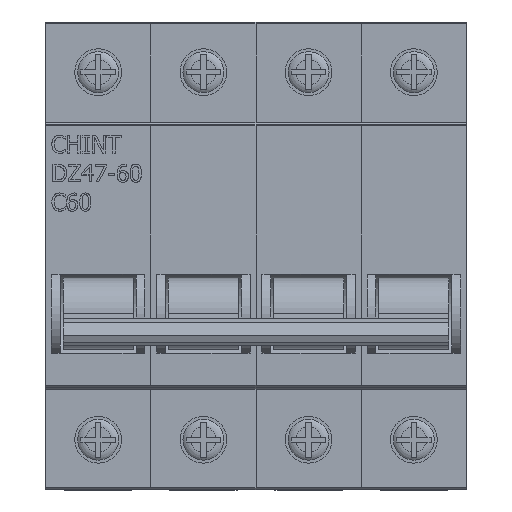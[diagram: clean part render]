
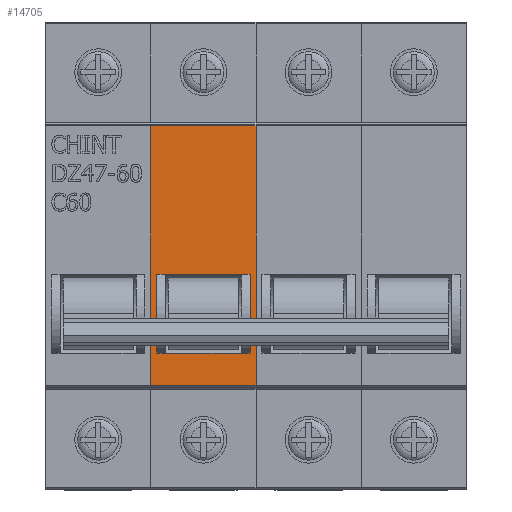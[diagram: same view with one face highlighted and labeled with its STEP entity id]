
A CAD part, top view. The second image highlights one B-rep face of the part: STEP entity #14705.
In plain terms, the highlighted planar face has unit normal (0, 0, 1).
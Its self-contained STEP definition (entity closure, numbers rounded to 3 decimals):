
#772=FACE_BOUND('',#2510,.T.);
#1509=FACE_OUTER_BOUND('',#2509,.T.);
#2509=EDGE_LOOP('',(#11733,#11734,#11735,#11736));
#2510=EDGE_LOOP('',(#11737,#11738,#11739,#11740,#11741,#11742,#11743,#11744));
#3768=LINE('',#24034,#5133);
#3774=LINE('',#24046,#5139);
#3806=LINE('',#24116,#5171);
#3875=LINE('',#24295,#5240);
#3876=LINE('',#24297,#5241);
#3877=LINE('',#24300,#5242);
#3880=LINE('',#24339,#5245);
#3883=LINE('',#24350,#5248);
#3884=LINE('',#24354,#5249);
#3885=LINE('',#24362,#5250);
#3886=LINE('',#24364,#5251);
#3889=LINE('',#24387,#5254);
#5133=VECTOR('',#17945,10.);
#5139=VECTOR('',#17955,10.);
#5171=VECTOR('',#17997,10.);
#5240=VECTOR('',#18184,10.);
#5241=VECTOR('',#18185,10.);
#5242=VECTOR('',#18190,10.);
#5245=VECTOR('',#18241,10.);
#5248=VECTOR('',#18250,10.);
#5249=VECTOR('',#18253,10.);
#5250=VECTOR('',#18264,10.);
#5251=VECTOR('',#18267,10.);
#5254=VECTOR('',#18304,10.);
#6707=VERTEX_POINT('',#24031);
#6708=VERTEX_POINT('',#24033);
#6712=VERTEX_POINT('',#24045);
#6744=VERTEX_POINT('',#24112);
#6794=VERTEX_POINT('',#24285);
#6795=VERTEX_POINT('',#24287);
#6796=VERTEX_POINT('',#24294);
#6797=VERTEX_POINT('',#24296);
#6809=VERTEX_POINT('',#24338);
#6814=VERTEX_POINT('',#24348);
#6815=VERTEX_POINT('',#24352);
#6816=VERTEX_POINT('',#24353);
#8434=EDGE_CURVE('',#6707,#6708,#3768,.T.);
#8440=EDGE_CURVE('',#6712,#6708,#3774,.T.);
#8476=EDGE_CURVE('',#6712,#6744,#3806,.T.);
#8561=EDGE_CURVE('',#6795,#6796,#3875,.T.);
#8562=EDGE_CURVE('',#6797,#6794,#3876,.T.);
#8564=EDGE_CURVE('',#6796,#6797,#3877,.T.);
#8580=EDGE_CURVE('',#6809,#6795,#3880,.T.);
#8586=EDGE_CURVE('',#6794,#6814,#3883,.T.);
#8587=EDGE_CURVE('',#6815,#6816,#3884,.T.);
#8591=EDGE_CURVE('',#6814,#6815,#3885,.T.);
#8593=EDGE_CURVE('',#6816,#6809,#3886,.T.);
#8601=EDGE_CURVE('',#6744,#6707,#3889,.T.);
#11733=ORIENTED_EDGE('',*,*,#8434,.F.);
#11734=ORIENTED_EDGE('',*,*,#8601,.F.);
#11735=ORIENTED_EDGE('',*,*,#8476,.F.);
#11736=ORIENTED_EDGE('',*,*,#8440,.T.);
#11737=ORIENTED_EDGE('',*,*,#8564,.T.);
#11738=ORIENTED_EDGE('',*,*,#8562,.T.);
#11739=ORIENTED_EDGE('',*,*,#8586,.T.);
#11740=ORIENTED_EDGE('',*,*,#8591,.T.);
#11741=ORIENTED_EDGE('',*,*,#8587,.T.);
#11742=ORIENTED_EDGE('',*,*,#8593,.T.);
#11743=ORIENTED_EDGE('',*,*,#8580,.T.);
#11744=ORIENTED_EDGE('',*,*,#8561,.T.);
#13832=PLANE('',#15715);
#14705=ADVANCED_FACE('',(#1509,#772),#13832,.T.);
#15715=AXIS2_PLACEMENT_3D('',#24386,#18302,#18303);
#17945=DIRECTION('',(-1.,0.,0.));
#17955=DIRECTION('',(0.,-1.,0.));
#17997=DIRECTION('',(1.,0.,0.));
#18184=DIRECTION('',(1.,0.,0.));
#18185=DIRECTION('',(-1.,0.,0.));
#18190=DIRECTION('',(0.,-1.,0.));
#18241=DIRECTION('',(1.,0.,0.));
#18250=DIRECTION('',(-1.,0.,0.));
#18253=DIRECTION('',(0.,1.,0.));
#18264=DIRECTION('',(-1.,0.,0.));
#18267=DIRECTION('',(1.,0.,0.));
#18302=DIRECTION('center_axis',(0.,0.,1.));
#18303=DIRECTION('ref_axis',(0.,-1.,0.));
#18304=DIRECTION('',(0.,-1.,0.));
#24031=CARTESIAN_POINT('',(36.,-17.539,28.7));
#24033=CARTESIAN_POINT('',(18.,-17.539,28.7));
#24034=CARTESIAN_POINT('',(18.,-17.539,28.7));
#24045=CARTESIAN_POINT('',(18.,26.861,28.7));
#24046=CARTESIAN_POINT('',(18.,27.161,28.7));
#24112=CARTESIAN_POINT('',(36.,26.861,28.7));
#24116=CARTESIAN_POINT('',(18.,26.861,28.7));
#24285=CARTESIAN_POINT('',(33.5,-12.013,28.7));
#24287=CARTESIAN_POINT('',(33.5,1.44,28.7));
#24294=CARTESIAN_POINT('',(35.,1.44,28.7));
#24295=CARTESIAN_POINT('',(27.,1.44,28.7));
#24296=CARTESIAN_POINT('',(35.,-12.013,28.7));
#24297=CARTESIAN_POINT('',(27.,-12.013,28.7));
#24300=CARTESIAN_POINT('',(35.,10.937,28.7));
#24338=CARTESIAN_POINT('',(20.5,1.44,28.7));
#24339=CARTESIAN_POINT('',(27.,1.44,28.7));
#24348=CARTESIAN_POINT('',(20.5,-12.013,28.7));
#24350=CARTESIAN_POINT('',(27.,-12.013,28.7));
#24352=CARTESIAN_POINT('',(19.,-12.013,28.7));
#24353=CARTESIAN_POINT('',(19.,1.44,28.7));
#24354=CARTESIAN_POINT('',(19.,10.937,28.7));
#24362=CARTESIAN_POINT('',(27.,-12.013,28.7));
#24364=CARTESIAN_POINT('',(27.,1.44,28.7));
#24386=CARTESIAN_POINT('Origin',(18.,27.161,28.7));
#24387=CARTESIAN_POINT('',(36.,27.161,28.7));
